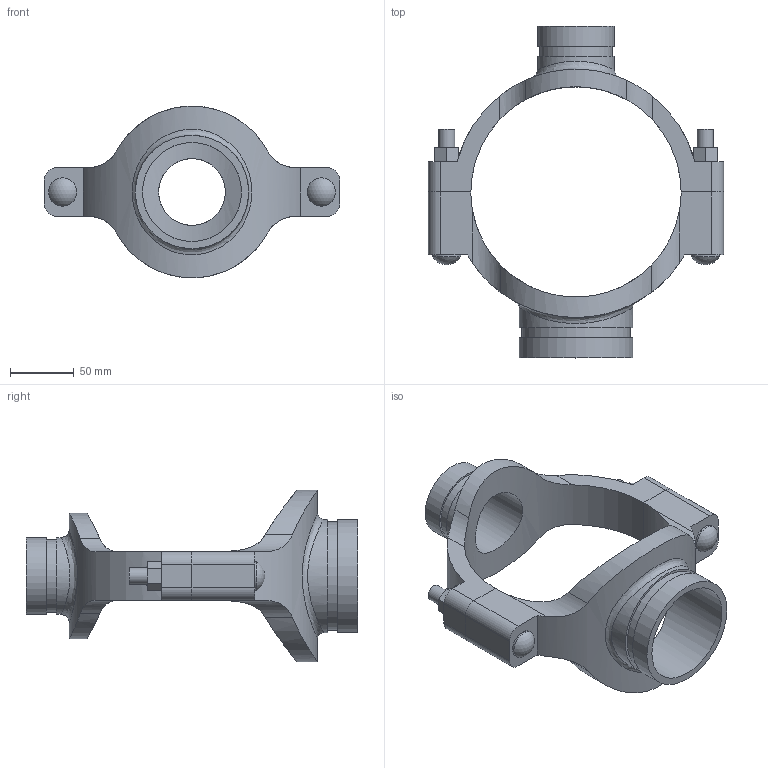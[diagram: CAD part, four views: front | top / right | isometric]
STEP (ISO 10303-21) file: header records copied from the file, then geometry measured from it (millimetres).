
FILE_DESCRIPTION(/* description */ ('VIC MECH-T BRANCH OUTLET CROSS STYLE 920N (GRVD)','CAx-IF Rec.Pracs.---Representation and Presentation of Product Manufacturing Information (PMI)---4.0---2014-10-13'),/* implementation_level */ '2;1');
FILE_NAME(/* name */ 'C:\Users\Vjadhav\AppData\Roaming\Autodesk\ApplicationPlugins\Back Up\Victaulic_IPS_Mechanical-Cross Outlet_Style 920N (OGS)\Victaulic_IPS_Mechanical-Cross Outlet_06.0 (165.1)x02.0x03.0 (150x50x80).stp',/* time_stamp */ '2020-08-06T19:45:27+05:00',/* author */ ('Vjadhav'),/* organization */ ('Victaulic'),/* preprocessor_version */ 'ST-DEVELOPER v17.2',/* originating_system */ 'Autodesk Inventor 2019',/* authorisation */ '');
FILE_SCHEMA (('AP242_MANAGED_MODEL_BASED_3D_ENGINEERING_MIM_LF { 1 0 10303 442 1 1 4 }'));
Length unit declared in the file: inch
Products named in the file (3): 920NG-06.0 (165.1)x02.0x03.0; 920NG-06.0 (165.1)x02.0x02.5; 920G-06.0 (165.1)x03.0
Assembly tree (2 placements, depth 2):
  920NG-06.0 (165.1)x02.0x03.0
    920NG-06.0 (165.1)x02.0x02.5
    920G-06.0 (165.1)x03.0
Bounding box: 231.9 x 260.6 x 134.87 mm (x, y, z)
Volume: 607820.4 mm3; surface area: 147204.7 mm2
Topology: 2 solids, 2 shells, 106 faces, 268 edges, 182 vertices
Faces by surface type: plane 54, cylinder 48, sphere 2, bspline 2
Full cylindrical faces by diameter (mm): 12.7 x4, 22.225 x2, 52.387 x1, 57.15 x1, 60.325 x2, 77.787 x1, 84.938 x1, 88.9 x2
Entity records: 4338 total; most frequent: CARTESIAN_POINT 1511, DIRECTION 542, ORIENTED_EDGE 536, EDGE_CURVE 268, AXIS2_PLACEMENT_3D 197, VERTEX_POINT 182, LINE 148, VECTOR 148
